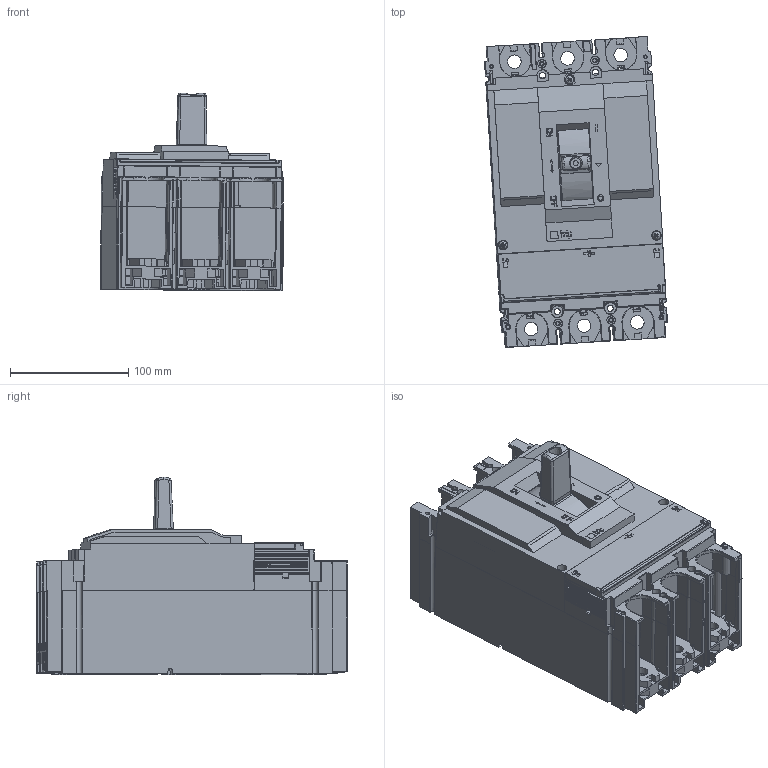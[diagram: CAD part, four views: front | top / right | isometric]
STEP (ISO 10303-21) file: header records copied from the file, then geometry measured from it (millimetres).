
FILE_DESCRIPTION(('STEP AP242'), '1');
FILE_NAME('ÂÀ11-06 ñòàö. èñï.', '', ('UNSPECIFIED'), ('UNSPECIFIED'), 'C3D Converter', 'C3D Toolkit', '');
FILE_SCHEMA(('AP242_MANAGED_MODEL_BASED_3D_ENGINEERING_MIM_LF { 1 0 10303 442 1 1 4 }'));
Length unit declared in the file: millimetre
Bounding box: 154.82 x 262.98 x 167.33 mm (x, y, z)
Volume: 538900.6 mm3; surface area: 443157 mm2
Topology: 3 solids, 4 shells, 6201 faces, 16963 edges, 10795 vertices
Faces by surface type: plane 3307, cylinder 1741, bspline 465, cone 269, sphere 217, torus 148, extrusion 54
Full cylindrical faces by diameter (mm): 1.5 x8, 1.55 x4, 1.7 x2, 2 x2, 2.2 x3, 2.5 x4, 2.6 x4, 3 x1, 3.1 x2, 3.2 x2, 3.5 x2, 3.6 x2, 4 x7, 4.2 x5, 4.5 x5, 4.6 x1, 5.2 x3, 5.3 x3, 5.6 x1, 6 x2, 6.3 x1, 7 x3, 8.1 x2, 9 x2, 9.8 x4, 11.4 x6
Entity records: 287971 total; most frequent: CARTESIAN_POINT 87398, ORIENTED_EDGE 33570, DIRECTION 28761, EDGE_CURVE 16786, VERTEX_POINT 10786, VECTOR 10611, LINE 10557, AXIS2_PLACEMENT_3D 9075
